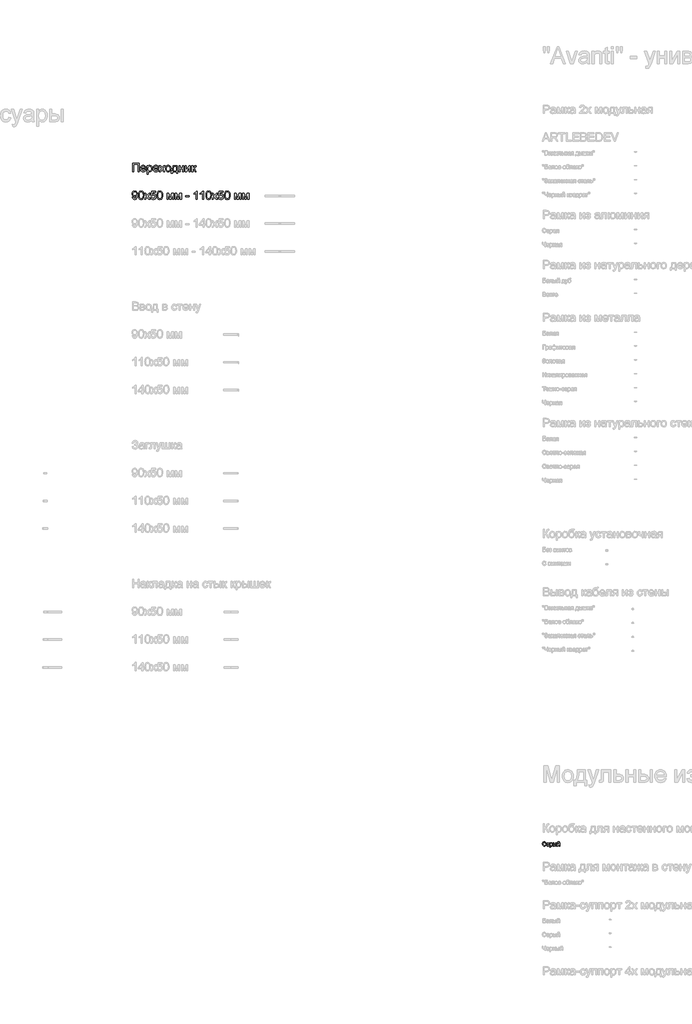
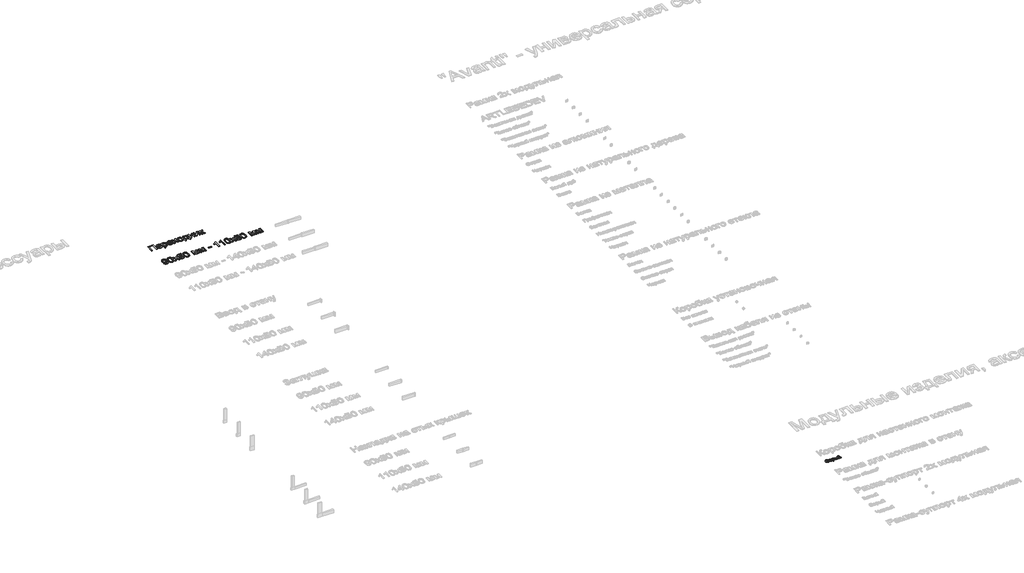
# One storey, part 94 of 168: 3 proxies.
"""IFC4 building model written with IfcOpenShell, lengths in millimetres."""

from ifc_helpers import new_model, si_unit, origin, origin_with_axes, place, context, project, spatial, polyline, outline, extrude, element, save

model = new_model("IFC4")

# Units and contexts
model_context = context("Model", 3, world=origin())
ifc_project = project(units=[si_unit("LENGTHUNIT", "METRE", prefix="MILLI")], contexts=[model_context])

# Site, building, storey
site = spatial("IfcSite", under=ifc_project)
building = spatial("IfcBuilding", under=site)
storey = spatial("IfcBuildingStorey", under=building, Name="Этаж 01", Elevation=0.0)

# Proxies
placement = place(None, origin())
element("IfcBuildingElementProxy", 1, Name="300 мм Arial 2", ObjectType="300 мм Arial 2", at=placement, inside=storey, context=model_context, shape_type="SweptSolid", body=[
    extrude(outline(polyline([(18078.8177316, -6847.0367511), (18314.2622085, -6847.0367511), (18314.2622085, -7148.4056816), (18276.5910922, -7148.4056816), (18276.5910922, -6884.7078674), (18116.4888479, -6884.7078674), (18116.4888479, -7148.4056816), (18078.8177316, -7148.4056816), (18078.8177316, -6847.0367511)])), origin_with_axes(), (0.0, 0.0, 1.0), 20.0),
    extrude(outline(polyline([(18530.4296688, -7082.481228), (18567.3650212, -7087.1901176), (18554.05689, -7115.0203905), (18532.8209018, -7135.8241173), (18504.1353032, -7148.7919577), (18468.4783409, -7153.1145711), (18445.1040386, -7151.2498692), (18424.2773191, -7145.6557637), (18405.9981825, -7136.3322543), (18390.2666287, -7123.2793413), (18377.6160866, -7106.860308), (18368.5799851, -7087.4384379), (18363.1583242, -7065.013731), (18361.3511039, -7039.5861874), (18363.1767183, -7013.2964203), (18368.6535615, -6990.1244531), (18377.7816335, -6970.0702859), (18390.5609343, -6953.1339185), (18406.2511014, -6939.6786346), (18424.1117722, -6930.0677174), (18444.1429469, -6924.3011672), (18466.3446253, -6922.3789837), (18487.8312331, -6924.2965686), (18507.2623002, -6930.0493233), (18524.6378267, -6939.6372478), (18539.9578125, -6953.0603421), (18552.4635011, -6969.9599213), (18561.3961358, -6989.9773003), (18566.7557166, -7013.1124793), (18568.5422435, -7039.3654582), (18568.3215143, -7049.5190013), (18399.0222202, -7049.5190013), (18405.5429285, -7077.7171562), (18420.6904697, -7098.4473066), (18442.5518572, -7111.1944178), (18469.2141048, -7115.4434548), (18489.2636736, -7113.4752861), (18506.1494572, -7107.5707801), (18519.8714556, -7097.3620547), (18530.4296688, -7082.481228)]), holes=[polyline([(18399.0222202, -7011.847885), (18530.8711272, -7011.847885), (18525.7759616, -6991.945469), (18515.7879654, -6977.7084358), (18493.8254103, -6964.464684), (18466.1974725, -6960.0501), (18440.8044178, -6963.5725701), (18419.8075529, -6974.1399805), (18405.2118347, -6990.6118968), (18399.0222202, -7011.847885)])]), origin_with_axes(), (0.0, 0.0, 1.0), 20.0),
    extrude(outline(polyline([(18606.2133598, -7233.1656933), (18606.2133598, -6927.0878733), (18643.8844762, -6927.0878733), (18643.8844762, -6964.0232256), (18656.1717348, -6945.8038698), (18669.9305214, -6932.7900442), (18685.9701764, -6924.9817488), (18705.1000402, -6922.3789837), (18730.5758683, -6926.0210155), (18752.8511231, -6936.9471107), (18770.9877055, -6954.4950819), (18784.0475163, -6978.0027414), (18791.9385851, -7005.7594379), (18794.5689414, -7036.0545202), (18791.5982943, -7068.271786), (18782.6863529, -7097.0861432), (18768.1182259, -7121.0352611), (18748.1790218, -7138.6568087), (18724.9564708, -7149.5001305), (18700.5383034, -7153.1145711), (18683.2202585, -7150.695747), (18667.7600176, -7143.4392746), (18654.5254629, -7132.4855882), (18643.8844762, -7118.975122), (18643.8844762, -7233.1656933), (18606.2133598, -7233.1656933)]), holes=[polyline([(18643.8844762, -7039.512611), (18647.9587693, -7073.2841782), (18660.1816485, -7096.9022022), (18678.2170634, -7110.8081417), (18699.728963, -7115.4434548), (18721.5903506, -7110.6425948), (18740.0856179, -7096.2400147), (18752.6947733, -7071.7574679), (18756.8978251, -7036.7167078), (18752.7959408, -7003.1290817), (18740.4902881, -6979.1799638), (18722.4824644, -6964.832566), (18701.2740674, -6960.0501), (18679.9828969, -6965.1360686), (18661.2852945, -6980.3939744), (18648.2346807, -7005.3455707), (18643.8844762, -7039.512611)])]), origin_with_axes(), (0.0, 0.0, 1.0), 20.0),
    extrude(outline(polyline([(18991.9008436, -7082.481228), (19028.8361959, -7087.1901176), (19015.5280647, -7115.0203905), (18994.2920766, -7135.8241173), (18965.606478, -7148.7919577), (18929.9495156, -7153.1145711), (18906.5752133, -7151.2498692), (18885.7484939, -7145.6557637), (18867.4693572, -7136.3322543), (18851.7378034, -7123.2793413), (18839.0872613, -7106.860308), (18830.0511598, -7087.4384379), (18824.6294989, -7065.013731), (18822.8222786, -7039.5861874), (18824.647893, -7013.2964203), (18830.1247362, -6990.1244531), (18839.2528082, -6970.0702859), (18852.032109, -6953.1339185), (18867.7222761, -6939.6786346), (18885.582947, -6930.0677174), (18905.6141216, -6924.3011672), (18927.8158, -6922.3789837), (18949.3024078, -6924.2965686), (18968.7334749, -6930.0493233), (18986.1090014, -6939.6372478), (19001.4289873, -6953.0603421), (19013.9346758, -6969.9599213), (19022.8673105, -6989.9773003), (19028.2268914, -7013.1124793), (19030.0134183, -7039.3654582), (19029.7926891, -7049.5190013), (18860.4933949, -7049.5190013), (18867.0141033, -7077.7171562), (18882.1616444, -7098.4473066), (18904.023032, -7111.1944178), (18930.6852796, -7115.4434548), (18950.7348483, -7113.4752861), (18967.6206319, -7107.5707801), (18981.3426303, -7097.3620547), (18991.9008436, -7082.481228)]), holes=[polyline([(18860.4933949, -7011.847885), (18992.342302, -7011.847885), (18987.2471364, -6991.945469), (18977.2591402, -6977.7084358), (18955.2965851, -6964.464684), (18927.6686472, -6960.0501), (18902.2755925, -6963.5725701), (18881.2787276, -6974.1399805), (18866.6830095, -6990.6118968), (18860.4933949, -7011.847885)])]), origin_with_axes(), (0.0, 0.0, 1.0), 20.0),
    extrude(outline(polyline([(19044.1400869, -7148.4056816), (19124.6326675, -7037.1581662), (19048.8489764, -6927.0878733), (19094.1720383, -6927.0878733), (19130.7395086, -6980.0628806), (19147.8092331, -7005.0788562), (19162.5980894, -6984.6246173), (19204.2423312, -6927.0878733), (19249.565393, -6927.0878733), (19169.9557293, -7037.1581662), (19246.6223371, -7148.4056816), (19201.2992752, -7148.4056816), (19155.1668731, -7081.5247348), (19146.7055872, -7069.3110526), (19089.4631487, -7148.4056816), (19044.1400869, -7148.4056816)])), origin_with_axes(), (0.0, 0.0, 1.0), 20.0),
    extrude(outline(polyline([(19270.1667847, -7037.7467774), (19272.2039313, -7009.0841715), (19278.3153709, -6984.385494), (19288.5011037, -6963.6507451), (19302.7611295, -6946.8799246), (19317.1177244, -6936.160763), (19332.9642413, -6928.504219), (19350.3006803, -6923.9102925), (19369.1270414, -6922.3789837), (19389.9100749, -6924.2436856), (19408.7019471, -6929.8377912), (19425.5026579, -6939.1613005), (19440.3122075, -6952.2142135), (19452.3994303, -6968.5550719), (19461.0331609, -6987.7424172), (19466.2133992, -7009.7762495), (19467.9401454, -7034.6565687), (19464.8867248, -7072.7139611), (19455.7264631, -7101.6846682), (19440.7260748, -7123.3805088), (19420.1522742, -7139.6133019), (19395.7157126, -7149.7392538), (19369.1270414, -7153.1145711), (19348.0405053, -7151.256767), (19329.0738892, -7145.6833548), (19312.2271931, -7136.3943344), (19297.500417, -7123.3897059), (19285.5419529, -7106.8901984), (19277.0001928, -7087.1165412), (19271.8751368, -7064.0687342), (19270.1667847, -7037.7467774)]), holes=[polyline([(19307.837901, -7037.673201), (19312.1973027, -7071.7666649), (19325.2755076, -7096.0560737), (19344.9571944, -7110.5966095), (19369.1270414, -7115.4434548), (19393.1865239, -7110.5690184), (19412.8314225, -7095.9457091), (19425.9096274, -7071.3344036), (19430.269029, -7036.4959786), (19425.8820363, -7003.3957961), (19412.7210579, -6979.4374812), (19393.0485682, -6964.8969453), (19369.1270414, -6960.0501), (19344.9571944, -6964.8785512), (19325.2755076, -6979.3639048), (19312.1973027, -7003.5981312), (19307.837901, -7037.673201)])]), origin_with_axes(), (0.0, 0.0, 1.0), 20.0),
    extrude(outline(polyline([(19543.282378, -6927.0878733), (19684.5490641, -6927.0878733), (19684.5490641, -7110.7345653), (19712.8024013, -7110.7345653), (19712.8024013, -7209.6212456), (19675.131285, -7209.6212456), (19675.131285, -7148.4056816), (19519.7379303, -7148.4056816), (19519.7379303, -7209.6212456), (19482.066814, -7209.6212456), (19482.066814, -7110.7345653), (19505.6112617, -7110.7345653), (19522.7269715, -7079.8048865), (19534.7107275, -7038.8872116), (19541.5625296, -6987.9815405), (19543.282378, -6927.0878733)]), holes=[polyline([(19576.2446047, -6964.7589896), (19573.154396, -7010.8821947), (19567.4154368, -7050.5858591), (19559.0277274, -7083.8699826), (19547.9912675, -7110.7345653), (19646.8779478, -7110.7345653), (19646.8779478, -6964.7589896), (19576.2446047, -6964.7589896)])]), origin_with_axes(), (0.0, 0.0, 1.0), 20.0),
    extrude(outline(polyline([(19755.1824072, -6927.0878733), (19792.8535235, -6927.0878733), (19792.8535235, -7011.847885), (19891.7402038, -7011.847885), (19891.7402038, -6927.0878733), (19929.4113201, -6927.0878733), (19929.4113201, -7148.4056816), (19891.7402038, -7148.4056816), (19891.7402038, -7049.5190013), (19792.8535235, -7049.5190013), (19792.8535235, -7148.4056816), (19755.1824072, -7148.4056816), (19755.1824072, -6927.0878733)])), origin_with_axes(), (0.0, 0.0, 1.0), 20.0),
    extrude(outline(polyline([(19985.9179946, -6927.0878733), (20023.5891109, -6927.0878733), (20023.5891109, -7095.8721327), (20116.1482209, -6927.0878733), (20164.855797, -6927.0878733), (20164.855797, -7148.4056816), (20127.1846807, -7148.4056816), (20127.1846807, -6980.6514918), (20035.2141819, -7148.4056816), (19985.9179946, -7148.4056816), (19985.9179946, -6927.0878733)])), origin_with_axes(), (0.0, 0.0, 1.0), 20.0),
    extrude(outline(polyline([(20221.3624715, -6927.0878733), (20259.0335878, -6927.0878733), (20259.0335878, -7021.265664), (20274.3558729, -7019.5734069), (20284.2702926, -7014.4966353), (20293.0442782, -7001.2528835), (20304.9452608, -6975.0596854), (20322.12535, -6941.0306009), (20337.2820882, -6929.9573528), (20364.8364496, -6927.0878733), (20372.0469367, -6927.0878733), (20372.0469367, -6964.9797188), (20361.8933936, -6964.7589896), (20343.4992939, -6968.7321151), (20330.5498476, -6993.5273616), (20315.3563212, -7020.345959), (20294.0559537, -7033.4793463), (20305.9937245, -7038.7814455), (20317.8211306, -7048.1394438), (20341.1448491, -7079.0231373), (20381.4647158, -7148.4056816), (20338.6432515, -7148.4056816), (20299.1327253, -7080.4946653), (20279.2670975, -7051.7630814), (20269.9780771, -7046.5483542), (20259.0335878, -7044.8101117), (20259.0335878, -7148.4056816), (20221.3624715, -7148.4056816), (20221.3624715, -6927.0878733)])), origin_with_axes(), (0.0, 0.0, 1.0), 20.0),
])
element("IfcBuildingElementProxy", 2, Name="300 мм Arial 2", ObjectType="300 мм Arial 2", at=placement, inside=storey, context=model_context, shape_type="SweptSolid", body=[
    extrude(outline(polyline([(18069.3999525, -8073.063449), (18107.0710688, -8068.3545594), (18113.5090037, -8089.7377004), (18123.9936406, -8104.2966303), (18138.267462, -8112.6567487), (18156.0729505, -8115.4434548), (18172.0482262, -8113.6500301), (18186.5703679, -8108.2697559), (18198.6368974, -8099.8912435), (18207.2453361, -8089.1031039), (18219.5693829, -8056.3616064), (18225.0140364, -8012.6572253), (18224.7933072, -8005.2995854), (18211.7426935, -8021.2288758), (18194.6637718, -8033.8472283), (18174.7889471, -8042.0693909), (18153.3506238, -8044.8101117), (18135.455464, -8043.1362486), (18118.9996425, -8038.1146594), (18103.9831593, -8029.745344), (18090.4060144, -8018.0283025), (18079.1557231, -8003.5751386), (18071.1198008, -7986.9974562), (18066.2982474, -7968.2952553), (18064.6910629, -7947.4685358), (18066.3764223, -7925.9474391), (18071.4325005, -7906.6336343), (18079.8592975, -7889.5271216), (18091.6568132, -7874.6279008), (18105.9927147, -7862.5567728), (18122.0346689, -7853.9345385), (18139.782676, -7848.761198), (18159.2367357, -7847.0367511), (18187.3337231, -7850.9730885), (18212.9107188, -7862.7821005), (18234.3030568, -7881.8751761), (18249.8460711, -7907.6637039), (18259.3098354, -7943.3114693), (18262.4644236, -7991.9822572), (18259.3190325, -8043.5869041), (18249.8828593, -8083.4745094), (18234.2386775, -8113.447695), (18212.4692604, -8135.3090825), (18185.5127072, -8148.663199), (18154.307117, -8153.1145711), (18122.0990483, -8147.8630556), (18096.4024909, -8132.1085092), (18078.4314555, -8106.8442132), (18069.3999525, -8073.063449)]), holes=[polyline([(18224.7933072, -7946.585619), (18220.7282112, -7921.0546085), (18208.5329231, -7901.40971), (18189.6053944, -7888.8833281), (18165.3435768, -7884.7078674), (18140.1804484, -7889.2052248), (18120.020515, -7902.697297), (18106.7767632, -7923.344674), (18102.3621793, -7949.3079458), (18106.5376399, -7972.585679), (18119.0640218, -7991.0625522), (18138.7273145, -8003.1198846), (18164.3135072, -8007.1389954), (18188.3821868, -8003.1198846), (18207.7603709, -7991.0625522), (18220.5350732, -7971.9050973), (18224.7933072, -7946.585619)])]), origin_with_axes(), (0.0, 0.0, 1.0), 20.0),
    extrude(outline(polyline([(18295.4266503, -8000.1492375), (18298.1949623, -7951.9107109), (18306.4998984, -7913.4394512), (18320.258685, -7884.1468474), (18339.3885487, -7863.4442881), (18364.0274454, -7851.1386354), (18394.3133306, -7847.0367511), (18417.5266845, -7849.4647723), (18438.3120172, -7856.7488358), (18455.6944415, -7868.6038331), (18468.6990701, -7884.7446556), (18478.5215193, -7905.0333477), (18486.3574058, -7929.3319534), (18491.4893597, -7960.1880558), (18493.2000109, -8000.1492375), (18490.4592901, -8048.1118526), (18482.2371275, -8086.4911418), (18468.5611143, -8115.8113368), (18449.4588417, -8136.5966695), (18424.7647628, -8148.9850957), (18394.3133306, -8153.1145711), (18373.5647861, -8151.3211464), (18355.1706863, -8145.9408722), (18339.1310313, -8136.9737486), (18325.4458211, -8124.4197755), (18312.3124339, -8101.7260549), (18302.931443, -8073.4497251), (18297.3028485, -8039.5907859), (18295.4266503, -8000.1492375)]), holes=[polyline([(18333.0977666, -8000.0756611), (18337.5123506, -8059.3322535), (18343.0305805, -8079.6002522), (18350.7561024, -8093.6280525), (18370.4745773, -8109.9896042), (18394.3133306, -8115.4434548), (18418.1520839, -8109.9712101), (18437.8705589, -8093.5544761), (18445.5960808, -8079.5036831), (18451.1143107, -8059.240283), (18455.5288946, -8000.0756611), (18451.2614635, -7942.152641), (18445.9271745, -7921.9513209), (18438.45917, -7907.5901275), (18418.7774833, -7890.4284325), (18393.8718722, -7884.7078674), (18370.2906363, -7889.7478508), (18351.3447136, -7904.8678008), (18343.3616743, -7920.5027856), (18337.6595034, -7941.5824239), (18333.0977666, -8000.0756611)])]), origin_with_axes(), (0.0, 0.0, 1.0), 20.0),
    extrude(outline(polyline([(18512.0355691, -8148.4056816), (18592.5281496, -8037.1581662), (18516.7444586, -7927.0878733), (18562.0675204, -7927.0878733), (18598.6349907, -7980.0628806), (18615.7047153, -8005.0788562), (18630.4935715, -7984.6246173), (18672.1378134, -7927.0878733), (18717.4608752, -7927.0878733), (18637.8512114, -8037.1581662), (18714.5178192, -8148.4056816), (18669.1947574, -8148.4056816), (18623.0623552, -8081.5247348), (18614.6010693, -8069.3110526), (18557.3586309, -8148.4056816), (18512.0355691, -8148.4056816)])), origin_with_axes(), (0.0, 0.0, 1.0), 20.0),
    extrude(outline(polyline([(18738.0622669, -8068.3545594), (18775.7333832, -8063.6456699), (18782.6495647, -8086.2612155), (18794.7160942, -8102.4572204), (18811.8777893, -8112.1968962), (18834.0794677, -8115.4434548), (18861.0820061, -8110.9277033), (18881.3155158, -8097.3804488), (18893.9522624, -8076.3651899), (18898.1645112, -8049.4454249), (18894.2189768, -8024.0983554), (18882.3823736, -8004.7109743), (18862.5627311, -7992.4053215), (18834.6680789, -7988.3034373), (18816.3935407, -7989.9405121), (18801.5954875, -7994.8517368), (18780.4422728, -8011.847885), (18742.7711565, -8007.1389954), (18775.7333832, -7851.7456407), (18921.7089589, -7851.7456407), (18921.7089589, -7889.416757), (18806.1940124, -7889.416757), (18790.080781, -7972.4109351), (18816.991349, -7956.0769745), (18845.1895039, -7950.632321), (18863.5353192, -7952.3199796), (18880.3866138, -7957.3829556), (18895.7433878, -7965.8212488), (18909.6056413, -7977.6348594), (18921.0812603, -7992.1018189), (18929.278131, -8008.5001588), (18934.1962534, -8026.8298792), (18935.8356275, -8047.0909801), (18929.9311215, -8084.7620964), (18922.550489, -8101.5559095), (18912.2176034, -8116.9885592), (18896.5642245, -8132.7936894), (18878.2988835, -8144.0830681), (18857.4215803, -8150.8566954), (18833.9323149, -8153.1145711), (18796.9325832, -8147.3112326), (18781.2539124, -8140.0570595), (18767.4560383, -8129.9012172), (18755.9758208, -8117.3495434), (18747.2501197, -8102.9078758), (18738.0622669, -8068.3545594)])), origin_with_axes(), (0.0, 0.0, 1.0), 20.0),
    extrude(outline(polyline([(18968.7978543, -8000.1492375), (18971.5661663, -7951.9107109), (18979.8711023, -7913.4394512), (18993.629889, -7884.1468474), (19012.7597527, -7863.4442881), (19037.3986493, -7851.1386354), (19067.6845346, -7847.0367511), (19090.8978885, -7849.4647723), (19111.6832212, -7856.7488358), (19129.0656455, -7868.6038331), (19142.070274, -7884.7446556), (19151.8927233, -7905.0333477), (19159.7286098, -7929.3319534), (19164.8605636, -7960.1880558), (19166.5712149, -8000.1492375), (19163.830494, -8048.1118526), (19155.6083314, -8086.4911418), (19141.9323183, -8115.8113368), (19122.8300457, -8136.5966695), (19098.1359667, -8148.9850957), (19067.6845346, -8153.1145711), (19046.9359901, -8151.3211464), (19028.5418903, -8145.9408722), (19012.5022353, -8136.9737486), (18998.8170251, -8124.4197755), (18985.6836379, -8101.7260549), (18976.302647, -8073.4497251), (18970.6740525, -8039.5907859), (18968.7978543, -8000.1492375)]), holes=[polyline([(19006.4689706, -8000.0756611), (19010.8835545, -8059.3322535), (19016.4017845, -8079.6002522), (19024.1273064, -8093.6280525), (19043.8457813, -8109.9896042), (19067.6845346, -8115.4434548), (19091.5232879, -8109.9712101), (19111.2417628, -8093.5544761), (19118.9672847, -8079.5036831), (19124.4855147, -8059.240283), (19128.9000986, -8000.0756611), (19124.6326675, -7942.152641), (19119.2983785, -7921.9513209), (19111.830374, -7907.5901275), (19092.1486873, -7890.4284325), (19067.2430762, -7884.7078674), (19043.6618403, -7889.7478508), (19024.7159176, -7904.8678008), (19016.7328783, -7920.5027856), (19011.0307073, -7941.5824239), (19006.4689706, -8000.0756611)])]), origin_with_axes(), (0.0, 0.0, 1.0), 20.0),
    extrude(outline(polyline([(19326.6734592, -7927.0878733), (19391.4942668, -7927.0878733), (19441.4526417, -8104.2598421), (19495.3105658, -7927.0878733), (19557.4090466, -7927.0878733), (19557.4090466, -8148.4056816), (19519.7379303, -8148.4056816), (19519.7379303, -7970.2036431), (19465.5857006, -8148.4056816), (19416.1423604, -8148.4056816), (19364.3445755, -7961.6687808), (19364.3445755, -8148.4056816), (19326.6734592, -8148.4056816), (19326.6734592, -7927.0878733)])), origin_with_axes(), (0.0, 0.0, 1.0), 20.0),
    extrude(outline(polyline([(19613.915721, -7927.0878733), (19678.7365286, -7927.0878733), (19728.6949035, -8104.2598421), (19782.5528276, -7927.0878733), (19844.6513084, -7927.0878733), (19844.6513084, -8148.4056816), (19806.9801921, -8148.4056816), (19806.9801921, -7970.2036431), (19752.8279624, -8148.4056816), (19703.3846223, -8148.4056816), (19651.5868373, -7961.6687808), (19651.5868373, -8148.4056816), (19613.915721, -8148.4056816), (19613.915721, -7927.0878733)])), origin_with_axes(), (0.0, 0.0, 1.0), 20.0),
    extrude(outline(polyline([(20000.0446632, -8058.9367803), (20000.0446632, -8021.265664), (20117.7669016, -8021.265664), (20117.7669016, -8058.9367803), (20000.0446632, -8058.9367803)])), origin_with_axes(), (0.0, 0.0, 1.0), 20.0),
    extrude(outline(polyline([(20409.718053, -8148.4056816), (20372.0469367, -8148.4056816), (20372.0469367, -7913.5498158), (20336.3623832, -7938.9704617), (20296.7047041, -7957.9899609), (20296.7047041, -7922.3789837), (20326.2916135, -7906.2841464), (20351.9237916, -7887.1358886), (20372.1297101, -7866.7736202), (20385.4378413, -7847.0367511), (20409.718053, -7847.0367511), (20409.718053, -8148.4056816)])), origin_with_axes(), (0.0, 0.0, 1.0), 20.0),
    extrude(outline(polyline([(20640.4536404, -8148.4056816), (20602.7825241, -8148.4056816), (20602.7825241, -7913.5498158), (20567.0979705, -7938.9704617), (20527.4402915, -7957.9899609), (20527.4402915, -7922.3789837), (20557.0272009, -7906.2841464), (20582.6593789, -7887.1358886), (20602.8652975, -7866.7736202), (20616.1734287, -7847.0367511), (20640.4536404, -7847.0367511), (20640.4536404, -8148.4056816)])), origin_with_axes(), (0.0, 0.0, 1.0), 20.0),
    extrude(outline(polyline([(20729.9225416, -8000.1492375), (20732.6908536, -7951.9107109), (20740.9957897, -7913.4394512), (20754.7545763, -7884.1468474), (20773.88444, -7863.4442881), (20798.5233367, -7851.1386354), (20828.8092219, -7847.0367511), (20852.0225758, -7849.4647723), (20872.8079085, -7856.7488358), (20890.1903328, -7868.6038331), (20903.1949613, -7884.7446556), (20913.0174106, -7905.0333477), (20920.8532971, -7929.3319534), (20925.9852509, -7960.1880558), (20927.6959022, -8000.1492375), (20924.9551813, -8048.1118526), (20916.7330188, -8086.4911418), (20903.0570056, -8115.8113368), (20883.954733, -8136.5966695), (20859.2606541, -8148.9850957), (20828.8092219, -8153.1145711), (20808.0606774, -8151.3211464), (20789.6665776, -8145.9408722), (20773.6269226, -8136.9737486), (20759.9417124, -8124.4197755), (20746.8083252, -8101.7260549), (20737.4273343, -8073.4497251), (20731.7987398, -8039.5907859), (20729.9225416, -8000.1492375)]), holes=[polyline([(20767.5936579, -8000.0756611), (20772.0082419, -8059.3322535), (20777.5264718, -8079.6002522), (20785.2519937, -8093.6280525), (20804.9704686, -8109.9896042), (20828.8092219, -8115.4434548), (20852.6479752, -8109.9712101), (20872.3664501, -8093.5544761), (20880.091972, -8079.5036831), (20885.610202, -8059.240283), (20890.0247859, -8000.0756611), (20885.7573548, -7942.152641), (20880.4230658, -7921.9513209), (20872.9550613, -7907.5901275), (20853.2733746, -7890.4284325), (20828.3677635, -7884.7078674), (20804.7865276, -7889.7478508), (20785.8406049, -7904.8678008), (20777.8575656, -7920.5027856), (20772.1553947, -7941.5824239), (20767.5936579, -8000.0756611)])]), origin_with_axes(), (0.0, 0.0, 1.0), 20.0),
    extrude(outline(polyline([(20946.5314604, -8148.4056816), (21027.0240409, -8037.1581662), (20951.2403499, -7927.0878733), (20996.5634117, -7927.0878733), (21033.130882, -7980.0628806), (21050.2006066, -8005.0788562), (21064.9894628, -7984.6246173), (21106.6337047, -7927.0878733), (21151.9567665, -7927.0878733), (21072.3471027, -8037.1581662), (21149.0137105, -8148.4056816), (21103.6906487, -8148.4056816), (21057.5582465, -8081.5247348), (21049.0969606, -8069.3110526), (20991.8545222, -8148.4056816), (20946.5314604, -8148.4056816)])), origin_with_axes(), (0.0, 0.0, 1.0), 20.0),
    extrude(outline(polyline([(21172.5581582, -8068.3545594), (21210.2292745, -8063.6456699), (21217.145456, -8086.2612155), (21229.2119855, -8102.4572204), (21246.3736805, -8112.1968962), (21268.5753589, -8115.4434548), (21295.5778974, -8110.9277033), (21315.8114071, -8097.3804488), (21328.4481537, -8076.3651899), (21332.6604025, -8049.4454249), (21328.7148681, -8024.0983554), (21316.8782649, -8004.7109743), (21297.0586224, -7992.4053215), (21269.1639701, -7988.3034373), (21250.889432, -7989.9405121), (21236.0913788, -7994.8517368), (21214.938164, -8011.847885), (21177.2670477, -8007.1389954), (21210.2292745, -7851.7456407), (21356.2048502, -7851.7456407), (21356.2048502, -7889.416757), (21240.6899037, -7889.416757), (21224.5766723, -7972.4109351), (21251.4872403, -7956.0769745), (21279.6853952, -7950.632321), (21298.0312104, -7952.3199796), (21314.8825051, -7957.3829556), (21330.2392791, -7965.8212488), (21344.1015326, -7977.6348594), (21355.5771515, -7992.1018189), (21363.7740222, -8008.5001588), (21368.6921447, -8026.8298792), (21370.3315188, -8047.0909801), (21364.4270128, -8084.7620964), (21357.0463803, -8101.5559095), (21346.7134947, -8116.9885592), (21331.0601158, -8132.7936894), (21312.7947748, -8144.0830681), (21291.9174715, -8150.8566954), (21268.4282061, -8153.1145711), (21231.4284745, -8147.3112326), (21215.7498037, -8140.0570595), (21201.9519296, -8129.9012172), (21190.4717121, -8117.3495434), (21181.746011, -8102.9078758), (21172.5581582, -8068.3545594)])), origin_with_axes(), (0.0, 0.0, 1.0), 20.0),
    extrude(outline(polyline([(21403.2937456, -8000.1492375), (21406.0620576, -7951.9107109), (21414.3669936, -7913.4394512), (21428.1257803, -7884.1468474), (21447.255644, -7863.4442881), (21471.8945406, -7851.1386354), (21502.1804259, -7847.0367511), (21525.3937798, -7849.4647723), (21546.1791125, -7856.7488358), (21563.5615368, -7868.6038331), (21576.5661653, -7884.7446556), (21586.3886146, -7905.0333477), (21594.2245011, -7929.3319534), (21599.3564549, -7960.1880558), (21601.0671062, -8000.1492375), (21598.3263853, -8048.1118526), (21590.1042227, -8086.4911418), (21576.4282096, -8115.8113368), (21557.325937, -8136.5966695), (21532.631858, -8148.9850957), (21502.1804259, -8153.1145711), (21481.4318814, -8151.3211464), (21463.0377816, -8145.9408722), (21446.9981266, -8136.9737486), (21433.3129164, -8124.4197755), (21420.1795292, -8101.7260549), (21410.7985383, -8073.4497251), (21405.1699438, -8039.5907859), (21403.2937456, -8000.1492375)]), holes=[polyline([(21440.9648619, -8000.0756611), (21445.3794458, -8059.3322535), (21450.8976758, -8079.6002522), (21458.6231977, -8093.6280525), (21478.3416726, -8109.9896042), (21502.1804259, -8115.4434548), (21526.0191792, -8109.9712101), (21545.7376541, -8093.5544761), (21553.463176, -8079.5036831), (21558.9814059, -8059.240283), (21563.3959899, -8000.0756611), (21559.1285587, -7942.152641), (21553.7942698, -7921.9513209), (21546.3262653, -7907.5901275), (21526.6445786, -7890.4284325), (21501.7389675, -7884.7078674), (21478.1577316, -7889.7478508), (21459.2118088, -7904.8678008), (21451.2287695, -7920.5027856), (21445.5265986, -7941.5824239), (21440.9648619, -8000.0756611)])]), origin_with_axes(), (0.0, 0.0, 1.0), 20.0),
    extrude(outline(polyline([(21761.1693505, -7927.0878733), (21825.990158, -7927.0878733), (21875.948533, -8104.2598421), (21929.8064571, -7927.0878733), (21991.9049379, -7927.0878733), (21991.9049379, -8148.4056816), (21954.2338216, -8148.4056816), (21954.2338216, -7970.2036431), (21900.0815919, -8148.4056816), (21850.6382517, -8148.4056816), (21798.8404668, -7961.6687808), (21798.8404668, -8148.4056816), (21761.1693505, -8148.4056816), (21761.1693505, -7927.0878733)])), origin_with_axes(), (0.0, 0.0, 1.0), 20.0),
    extrude(outline(polyline([(22048.4116123, -7927.0878733), (22113.2324199, -7927.0878733), (22163.1907948, -8104.2598421), (22217.0487189, -7927.0878733), (22279.1471997, -7927.0878733), (22279.1471997, -8148.4056816), (22241.4760834, -8148.4056816), (22241.4760834, -7970.2036431), (22187.3238537, -8148.4056816), (22137.8805135, -8148.4056816), (22086.0827286, -7961.6687808), (22086.0827286, -8148.4056816), (22048.4116123, -8148.4056816), (22048.4116123, -7927.0878733)])), origin_with_axes(), (0.0, 0.0, 1.0), 20.0),
])
element("IfcBuildingElementProxy", 3, Name="150", ObjectType="150", at=placement, inside=storey, context=model_context, shape_type="SweptSolid", body=[
    extrude(outline(polyline([(32988.5634029, -31413.2986792), (33007.398961, -31418.1547216), (32998.7077489, -31440.1034811), (32985.0685239, -31456.1385376), (32967.1526708, -31465.9471913), (32945.631574, -31469.2167425), (32923.7839821, -31466.7427361), (32906.4337475, -31459.3207168), (32893.1348133, -31447.2082021), (32883.4411228, -31430.6627094), (32877.5228212, -31411.2109489), (32875.550054, -31390.3796309), (32877.7803386, -31368.4078788), (32884.4711923, -31349.4343649), (32895.2731274, -31334.061496), (32909.8366559, -31322.8916789), (32927.1087156, -31316.0904605), (32946.0362442, -31313.8233877), (32966.6882197, -31316.7572467), (32983.7625428, -31325.5588234), (32996.7257847, -31339.685492), (33005.0445163, -31358.5946266), (32986.2089581, -31363.0827869), (32979.6790527, -31349.3469929), (32970.7579143, -31339.9246153), (32959.3351784, -31334.4753632), (32945.3004803, -31332.6589459), (32929.1228695, -31334.6730998), (32915.8331324, -31340.7155616), (32905.7485672, -31350.1517348), (32899.1864722, -31362.3470229), (32894.3856121, -31390.3428427), (32895.8065563, -31407.7436611), (32900.0693889, -31422.7900347), (32907.3350583, -31434.9071479), (32917.7645129, -31443.5201851), (32930.2679022, -31448.6659345), (32943.7553759, -31450.3811843), (32959.4777326, -31448.0451337), (32972.5789302, -31441.0369817), (32982.4703573, -31429.4303047), (32988.5634029, -31413.2986792)])), origin_with_axes(), (0.0, 0.0, 1.0), 20.0),
    extrude(outline(polyline([(33108.4193569, -31433.900071), (33126.8870331, -31436.2545157), (33120.2329675, -31450.1696522), (33109.6149734, -31460.5715156), (33095.2721741, -31467.0554358), (33077.4436929, -31469.2167425), (33055.3431821, -31465.4873388), (33038.3378368, -31454.2991276), (33027.494515, -31436.3786759), (33023.8800744, -31412.4525506), (33027.5313032, -31387.7216835), (33038.4849896, -31369.2264162), (33055.2604086, -31357.6933157), (33076.3768351, -31353.8489488), (33096.8356726, -31357.6841186), (33113.1834288, -31369.189628), (33123.9025904, -31387.6481071), (33127.4756443, -31412.342186), (33127.3652797, -31417.4189576), (33042.7156326, -31417.4189576), (33045.9759868, -31431.518035), (33053.5497573, -31441.8831103), (33064.4804511, -31448.2566658), (33077.8115749, -31450.3811843), (33096.2792511, -31446.444847), (33108.4193569, -31433.900071)]), holes=[polyline([(33042.7156326, -31398.5833994), (33108.6400861, -31398.5833994), (33106.0925033, -31388.6321915), (33101.0985052, -31381.5136749), (33090.1172277, -31374.8917989), (33076.3032587, -31372.684507), (33063.6067314, -31374.445742), (33053.1082989, -31379.7294472), (33045.8104399, -31387.9654053), (33042.7156326, -31398.5833994)])]), origin_with_axes(), (0.0, 0.0, 1.0), 20.0),
    extrude(outline(polyline([(33146.3112024, -31509.2423036), (33146.3112024, -31356.2033936), (33165.1467606, -31356.2033936), (33165.1467606, -31374.6710697), (33178.1697832, -31359.054479), (33195.7545426, -31353.8489488), (33208.4924567, -31355.6699647), (33219.6300841, -31361.1330123), (33228.6983752, -31369.9069979), (33235.2282807, -31381.6608277), (33240.4889932, -31410.6867171), (33239.0036696, -31426.7953499), (33234.547699, -31441.2025286), (33227.2636355, -31453.1770875), (33217.2940334, -31461.9878613), (33205.6827579, -31467.4095222), (33193.4736742, -31469.2167425), (33177.0845313, -31464.3790943), (33165.1467606, -31452.1470179), (33165.1467606, -31509.2423036), (33146.3112024, -31509.2423036)]), holes=[polyline([(33165.1467606, -31412.4157624), (33167.1839071, -31429.301546), (33173.2953468, -31441.1105581), (33182.3130542, -31448.0635278), (33193.069004, -31450.3811843), (33203.9996978, -31447.9807543), (33213.2473314, -31440.7794643), (33219.5519091, -31428.5381909), (33221.653435, -31411.0178109), (33219.6024929, -31394.2239978), (33213.4496665, -31382.2494388), (33204.4457547, -31375.0757399), (33193.8415562, -31372.684507), (33183.195971, -31375.2274913), (33173.8471698, -31382.8564441), (33167.3218629, -31395.3322423), (33165.1467606, -31412.4157624)])]), origin_with_axes(), (0.0, 0.0, 1.0), 20.0),
    extrude(outline(polyline([(33365.2745659, -31356.2033936), (33384.1101241, -31356.2033936), (33384.1101241, -31466.8622977), (33365.2745659, -31466.8622977), (33365.2745659, -31356.2033936)])), origin_with_axes(), (0.0, 0.0, 1.0), 20.0),
    extrude(outline(polyline([(33261.6789961, -31356.2033936), (33280.5145543, -31356.2033936), (33280.5145543, -31396.2289547), (33303.8014846, -31396.2289547), (33323.9292282, -31398.587998), (33338.8422446, -31405.6651278), (33348.0714841, -31416.8901272), (33351.1478973, -31431.692779), (33348.5681248, -31445.1710556), (33340.8288074, -31456.5432078), (33327.4241072, -31464.2825252), (33307.8481865, -31466.8622977), (33261.6789961, -31466.8622977), (33261.6789961, -31356.2033936)]), holes=[polyline([(33280.5145543, -31448.0267396), (33299.8651472, -31448.0267396), (33324.8443347, -31444.0720081), (33330.4453381, -31439.0090322), (33332.3123392, -31431.7295672), (33326.7757152, -31420.1412843), (33317.8959635, -31416.3337057), (33302.3299566, -31415.0645128), (33280.5145543, -31415.0645128), (33280.5145543, -31448.0267396)])]), origin_with_axes(), (0.0, 0.0, 1.0), 20.0),
    extrude(outline(polyline([(33473.5790253, -31316.1778325), (33487.7056939, -31316.1778325), (33484.666069, -31328.2397634), (33478.5638264, -31337.1287121), (33469.6748777, -31342.6055553), (33458.2751343, -31344.4311697), (33445.9051022, -31342.6193509), (33436.3125792, -31337.1838944), (33429.7550827, -31328.3087413), (33426.4901299, -31316.1778325), (33440.6167986, -31316.1778325), (33445.9142993, -31326.7912281), (33456.5828771, -31330.3045011), (33468.2815246, -31326.9015927), (33473.5790253, -31316.1778325)])), origin_with_axes(), (0.0, 0.0, 1.0), 20.0),
    extrude(outline(polyline([(33412.3634613, -31356.2033936), (33431.1990195, -31356.2033936), (33431.1990195, -31440.5955233), (33477.4785745, -31356.2033936), (33501.8323626, -31356.2033936), (33501.8323626, -31466.8622977), (33482.9968044, -31466.8622977), (33482.9968044, -31382.9852028), (33437.011555, -31466.8622977), (33412.3634613, -31466.8622977), (33412.3634613, -31356.2033936)])), origin_with_axes(), (0.0, 0.0, 1.0), 20.0),
])

save(model, "model.ifc")
